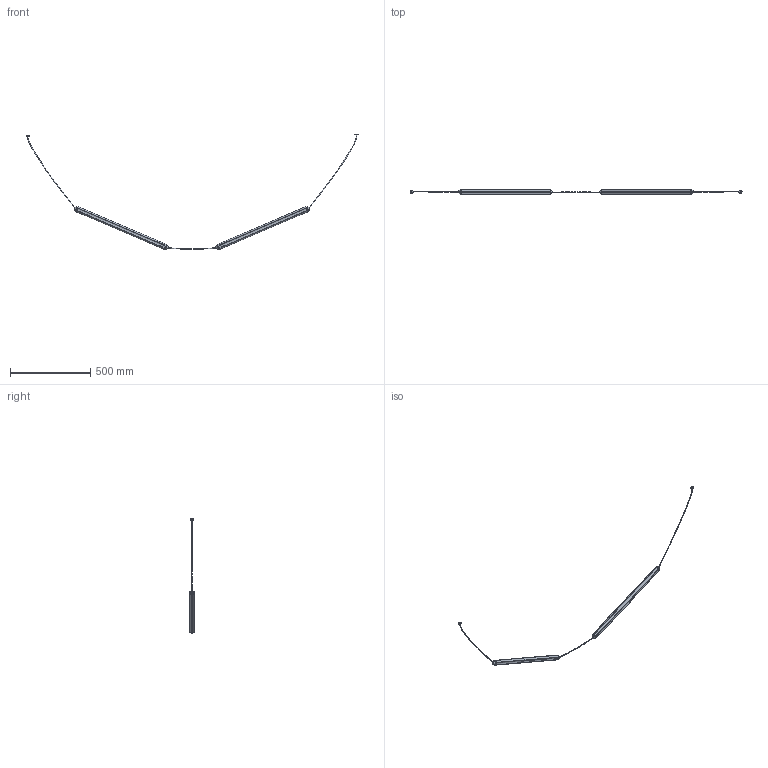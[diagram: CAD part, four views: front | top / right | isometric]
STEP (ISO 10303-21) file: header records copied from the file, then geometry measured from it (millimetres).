
FILE_DESCRIPTION(/* description */ (''),/* implementation_level */ '2;1');
FILE_NAME(/* name */ '64632-231_3d',/* time_stamp */ '2026-05-26T09:22:23+02:00',/* author */ (''),/* organization */ (''),/* preprocessor_version */ 'ST-DEVELOPER v19.2',/* originating_system */ 'Rhino 8.30',/* authorisation */ '');
FILE_SCHEMA (('CONFIG_CONTROL_DESIGN'));
Length unit declared in the file: millimetre
Products named in the file (1): Document
Bounding box: 2070.09 x 29.26 x 716.35 mm (x, y, z)
Volume: 458343.8 mm3; surface area: 215479.8 mm2
Topology: 10 solids, 13 shells, 195 faces, 558 edges, 356 vertices
Faces by surface type: cylinder 108, plane 73, bspline 14
Entity records: 10191 total; most frequent: CARTESIAN_POINT 5600, ORIENTED_EDGE 1086, DIRECTION 589, EDGE_CURVE 548, AXIS2_PLACEMENT_3D 385, VERTEX_POINT 354, B_SPLINE_CURVE_WITH_KNOTS 318, EDGE_LOOP 211
